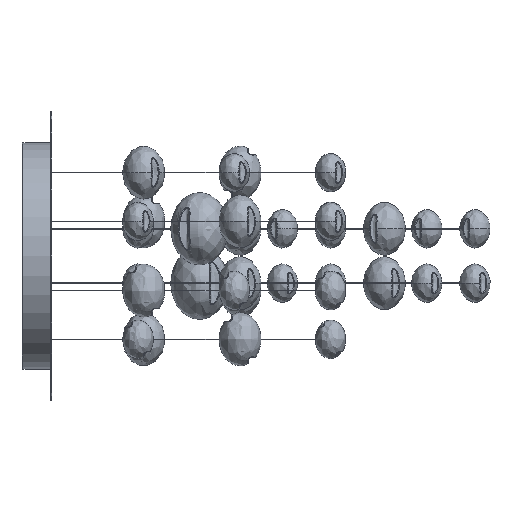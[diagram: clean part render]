
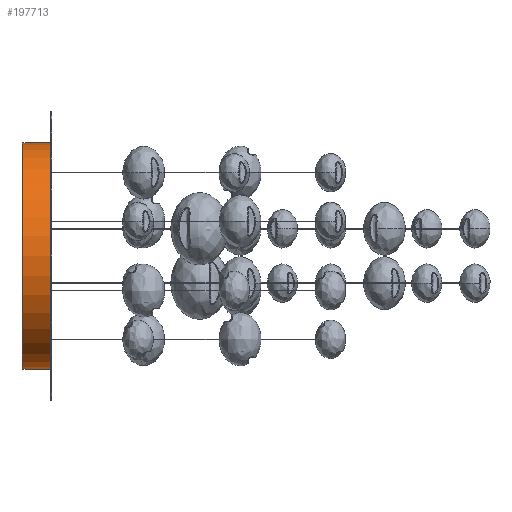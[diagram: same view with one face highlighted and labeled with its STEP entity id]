
A CAD part, left-side view. The second image highlights one B-rep face of the part: STEP entity #197713.
In plain terms, the highlighted cylindrical face has radius 235 mm (diameter 470 mm), a partial arc.
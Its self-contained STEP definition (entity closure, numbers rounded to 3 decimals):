
#17061 = DIRECTION ( 'NONE',  ( 0., -1., 0. ) ) ;
#39822 = VERTEX_POINT ( 'NONE', #293683 ) ;
#44673 = VECTOR ( 'NONE', #730440, 1000. ) ;
#70320 = FACE_OUTER_BOUND ( 'NONE', #426316, .T. ) ;
#76643 = DIRECTION ( 'NONE',  ( 0., -1., 0. ) ) ;
#78586 = DIRECTION ( 'NONE',  ( 0., 0., -1. ) ) ;
#86779 = CARTESIAN_POINT ( 'NONE',  ( 0., 0., 0. ) ) ;
#140672 = ORIENTED_EDGE ( 'NONE', *, *, #677372, .F. ) ;
#169393 = CARTESIAN_POINT ( 'NONE',  ( 0., 58., 0. ) ) ;
#182770 = LINE ( 'NONE', #378123, #44673 ) ;
#195601 = ORIENTED_EDGE ( 'NONE', *, *, #382237, .T. ) ;
#195907 = EDGE_CURVE ( 'NONE', #379190, #463288, #226805, .T. ) ;
#197713 = ADVANCED_FACE ( 'NONE', ( #70320 ), #604067, .T. ) ;
#226805 = CIRCLE ( 'NONE', #574741, 235. ) ;
#228546 = DIRECTION ( 'NONE',  ( 0., 0., -1. ) ) ;
#249994 = LINE ( 'NONE', #372094, #406369 ) ;
#284049 = AXIS2_PLACEMENT_3D ( 'NONE', #86779, #490182, #78586 ) ;
#293683 = CARTESIAN_POINT ( 'NONE',  ( 0., 58., -235. ) ) ;
#300062 = AXIS2_PLACEMENT_3D ( 'NONE', #169393, #580956, #228546 ) ;
#372094 = CARTESIAN_POINT ( 'NONE',  ( 0., 0., -235. ) ) ;
#378123 = CARTESIAN_POINT ( 'NONE',  ( 0., 0., 235. ) ) ;
#379190 = VERTEX_POINT ( 'NONE', #385950 ) ;
#382237 = EDGE_CURVE ( 'NONE', #39822, #463288, #249994, .T. ) ;
#384811 = ORIENTED_EDGE ( 'NONE', *, *, #195907, .F. ) ;
#385950 = CARTESIAN_POINT ( 'NONE',  ( 0., 0., 235. ) ) ;
#406369 = VECTOR ( 'NONE', #17061, 1000. ) ;
#426316 = EDGE_LOOP ( 'NONE', ( #140672, #668719, #195601, #384811 ) ) ;
#429045 = CARTESIAN_POINT ( 'NONE',  ( 0., 0., 0. ) ) ;
#463288 = VERTEX_POINT ( 'NONE', #644313 ) ;
#474712 = EDGE_CURVE ( 'NONE', #547936, #39822, #752745, .T. ) ;
#488235 = DIRECTION ( 'NONE',  ( 0., 0., -1. ) ) ;
#490182 = DIRECTION ( 'NONE',  ( 0., -1., 0. ) ) ;
#547936 = VERTEX_POINT ( 'NONE', #626317 ) ;
#574741 = AXIS2_PLACEMENT_3D ( 'NONE', #429045, #76643, #488235 ) ;
#580956 = DIRECTION ( 'NONE',  ( 0., -1., 0. ) ) ;
#604067 = CYLINDRICAL_SURFACE ( 'NONE', #284049, 235. ) ;
#626317 = CARTESIAN_POINT ( 'NONE',  ( 0., 58., 235. ) ) ;
#644313 = CARTESIAN_POINT ( 'NONE',  ( 0., 0., -235. ) ) ;
#668719 = ORIENTED_EDGE ( 'NONE', *, *, #474712, .T. ) ;
#677372 = EDGE_CURVE ( 'NONE', #547936, #379190, #182770, .T. ) ;
#730440 = DIRECTION ( 'NONE',  ( 0., -1., 0. ) ) ;
#752745 = CIRCLE ( 'NONE', #300062, 235. ) ;
